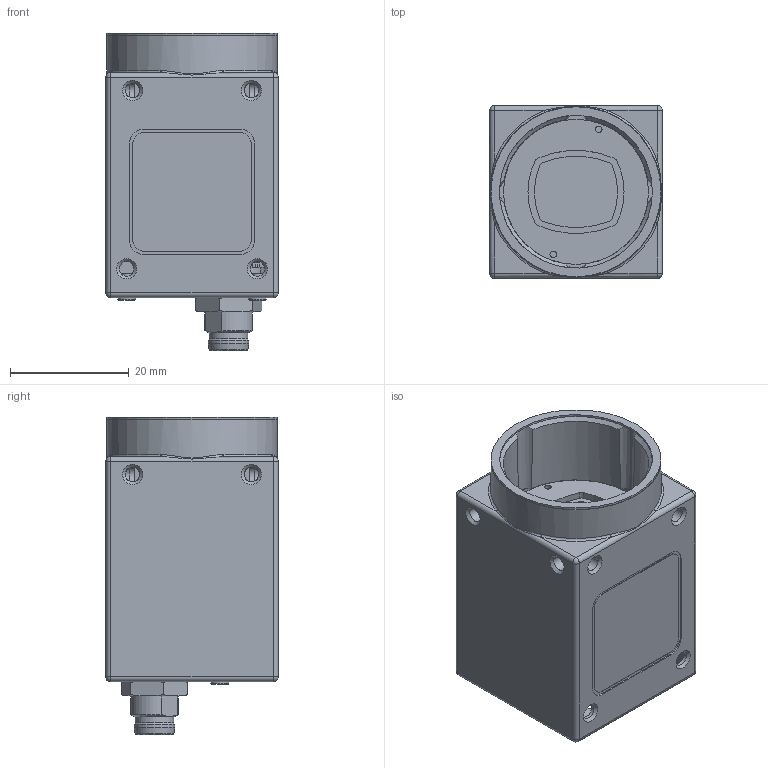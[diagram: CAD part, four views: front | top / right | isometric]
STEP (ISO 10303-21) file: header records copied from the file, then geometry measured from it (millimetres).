
FILE_DESCRIPTION( ( 'Unknown' ), '1' );
FILE_NAME( 'C:/Users/rih/Desktop/11151566_VCXU-50C.stp', '14.10.2014', ( 'Unknown' ), ( 'Unknown' ), 'PSStep 15.0.49', 'Unknown', ' ' );
FILE_SCHEMA( ( 'AUTOMOTIVE_DESIGN { 1 0 10303 214 1 1 1 1 }' ) );
Length unit declared in the file: millimetre
Products named in the file (6): 11104603
Bounding box: 29 x 29 x 53.35 mm (x, y, z)
Volume: 10471.6 mm3; surface area: 16229.6 mm2
Topology: 6 solids, 10 shells, 1768 faces, 4452 edges, 2957 vertices
Faces by surface type: plane 1023, cylinder 591, cone 71, torus 27, sphere 24, bspline 24, extrusion 8
Full cylindrical faces by diameter (mm): 0.217 x1, 0.6 x242, 0.7 x1, 0.9 x1, 1.1 x2, 1.4 x4, 1.567 x2, 1.6 x2, 1.9 x4, 2.459 x10, 3 x4, 6.5 x1, 6.9 x1, 8.4 x1, 9 x1, 9.4 x1, 24.4 x1, 25.7 x1, 26 x1, 28.6 x1, 28.7 x1
Entity records: 69755 total; most frequent: CARTESIAN_POINT 12780, DIRECTION 8238, ORIENTED_EDGE 7558, EDGE_CURVE 3779, AXIS2_PLACEMENT_3D 3069, VERTEX_POINT 2658, EDGE_LOOP 2479, PRESENTATION_STYLE_ASSIGNMENT 2437
